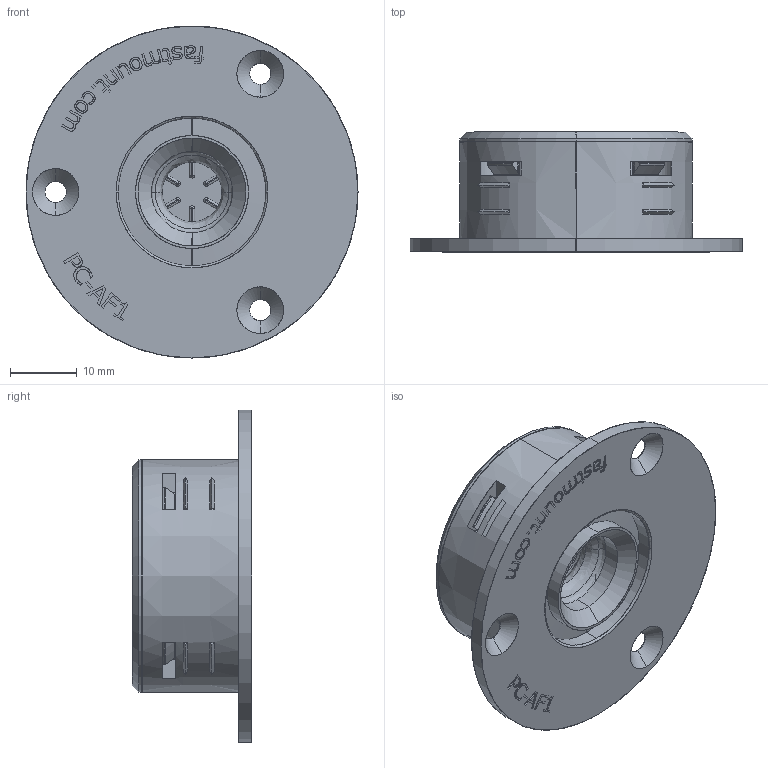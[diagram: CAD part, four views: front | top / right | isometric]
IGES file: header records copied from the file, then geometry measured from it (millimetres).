
Start section: SolidWorks IGES file using analytic representation for surfaces
Global section: file name: D:\Blender\Clients\FAS - Fastmount\FAS000 - General\Customer files\Clip Geometry\PC - Standard Range\IGES\PC-AF1.IGS; native system: SolidWorks 2018; preprocessor: SolidWorks 2018; author: Evan; date: 190204.093848; units: millimetre
Bounding box: 49.9 x 18 x 49.9 mm (x, y, z)
Surface area: 10721.3 mm2 (no closed solid volume)
Topology: 0 solids, 0 shells, 557 faces, 4875 edges, 4875 vertices
Faces by surface type: bspline 450, revolution 107
